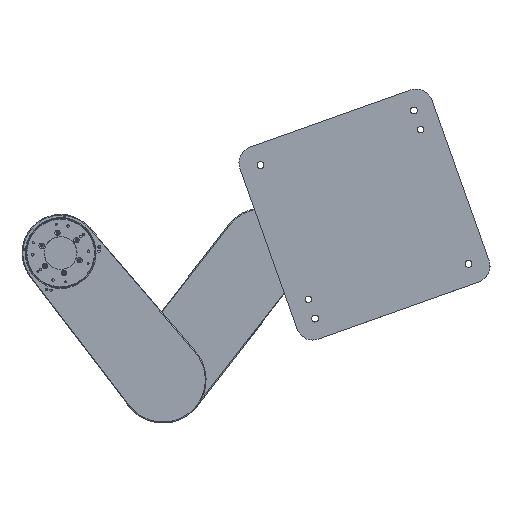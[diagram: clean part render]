
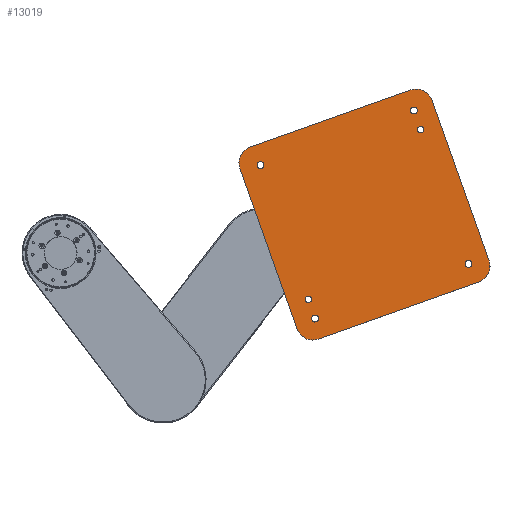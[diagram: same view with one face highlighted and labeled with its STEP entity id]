
A CAD part, top view. The second image highlights one B-rep face of the part: STEP entity #13019.
In plain terms, the highlighted planar face has unit normal (0, 0, 1) as drawn and (0.28, 0.209, 0.937) by its records, which use the part's own axes.
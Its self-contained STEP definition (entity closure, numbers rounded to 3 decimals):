
#11814=CARTESIAN_POINT('Vertex',(314.357,-45.836,782.163)) ;
#11819=CARTESIAN_POINT('Axis2P3D Location',(315.855,-42.336,780.935)) ;
#11823=CARTESIAN_POINT('Vertex',(317.352,-38.836,779.707)) ;
#11845=CARTESIAN_POINT('Axis2P3D Location',(315.855,-42.336,780.935)) ;
#12119=CARTESIAN_POINT('Vertex',(85.276,37.966,832.074)) ;
#12124=CARTESIAN_POINT('Axis2P3D Location',(83.779,34.466,833.302)) ;
#12128=CARTESIAN_POINT('Vertex',(82.282,30.966,834.529)) ;
#12150=CARTESIAN_POINT('Axis2P3D Location',(83.779,34.466,833.302)) ;
#12518=CARTESIAN_POINT('Vertex',(43.185,10.558,850.78)) ;
#12521=CARTESIAN_POINT('Axis2P3D Location',(58.23,21.727,843.788)) ;
#12525=CARTESIAN_POINT('Vertex',(46.307,37.784,843.78)) ;
#12549=CARTESIAN_POINT('Vertex',(168.382,-158.041,850.857)) ;
#12552=CARTESIAN_POINT('Line Origine',(105.783,-73.742,850.819)) ;
#12573=CARTESIAN_POINT('Vertex',(195.351,-162.929,843.872)) ;
#12576=CARTESIAN_POINT('Axis2P3D Location',(183.427,-146.872,843.865)) ;
#12597=CARTESIAN_POINT('Vertex',(353.327,-45.654,770.456)) ;
#12600=CARTESIAN_POINT('Line Origine',(274.339,-104.291,807.164)) ;
#12621=CARTESIAN_POINT('Vertex',(356.449,-18.428,763.456)) ;
#12624=CARTESIAN_POINT('Axis2P3D Location',(341.404,-29.597,770.449)) ;
#12645=CARTESIAN_POINT('Vertex',(231.252,150.171,763.379)) ;
#12648=CARTESIAN_POINT('Line Origine',(293.85,65.872,763.418)) ;
#12669=CARTESIAN_POINT('Vertex',(204.283,155.059,770.364)) ;
#12672=CARTESIAN_POINT('Axis2P3D Location',(216.206,139.002,770.371)) ;
#12689=CARTESIAN_POINT('Line Origine',(125.295,96.422,807.072)) ;
#12813=CARTESIAN_POINT('Axis2P3D Location',(64.972,20.505,842.042)) ;
#12817=CARTESIAN_POINT('Vertex',(63.381,16.786,843.346)) ;
#12819=CARTESIAN_POINT('Vertex',(66.563,24.224,840.737)) ;
#12839=CARTESIAN_POINT('Axis2P3D Location',(64.972,20.505,842.042)) ;
#12856=CARTESIAN_POINT('Axis2P3D Location',(184.208,-140.066,842.115)) ;
#12860=CARTESIAN_POINT('Vertex',(187.964,-141.922,841.404)) ;
#12862=CARTESIAN_POINT('Vertex',(180.452,-138.209,842.826)) ;
#12882=CARTESIAN_POINT('Axis2P3D Location',(184.208,-140.066,842.115)) ;
#12899=CARTESIAN_POINT('Axis2P3D Location',(334.661,-28.375,772.195)) ;
#12903=CARTESIAN_POINT('Vertex',(336.252,-24.656,770.89)) ;
#12905=CARTESIAN_POINT('Vertex',(333.07,-32.093,773.499)) ;
#12925=CARTESIAN_POINT('Axis2P3D Location',(334.661,-28.375,772.195)) ;
#12942=CARTESIAN_POINT('Axis2P3D Location',(215.426,132.196,772.121)) ;
#12946=CARTESIAN_POINT('Vertex',(211.669,134.052,772.832)) ;
#12948=CARTESIAN_POINT('Vertex',(219.182,130.339,771.41)) ;
#12968=CARTESIAN_POINT('Axis2P3D Location',(215.426,132.196,772.121)) ;
#12980=CARTESIAN_POINT('Axis2P3D Location',(-58.004,-39.652,892.257)) ;
#11820=DIRECTION('Axis2P3D Direction',(0.28,0.209,0.937)) ;
#11846=DIRECTION('Axis2P3D Direction',(0.28,0.209,0.937)) ;
#12125=DIRECTION('Axis2P3D Direction',(0.28,0.209,0.937)) ;
#12151=DIRECTION('Axis2P3D Direction',(0.28,0.209,0.937)) ;
#12522=DIRECTION('Axis2P3D Direction',(0.28,0.209,0.937)) ;
#12553=DIRECTION('Vector Direction',(-0.596,0.803,0.)) ;
#12577=DIRECTION('Axis2P3D Direction',(0.28,0.209,0.937)) ;
#12601=DIRECTION('Vector Direction',(-0.752,-0.558,0.35)) ;
#12625=DIRECTION('Axis2P3D Direction',(0.28,0.209,0.937)) ;
#12649=DIRECTION('Vector Direction',(0.596,-0.803,0.)) ;
#12673=DIRECTION('Axis2P3D Direction',(0.28,0.209,0.937)) ;
#12690=DIRECTION('Vector Direction',(0.752,0.558,-0.35)) ;
#12814=DIRECTION('Axis2P3D Direction',(0.28,0.209,0.937)) ;
#12840=DIRECTION('Axis2P3D Direction',(0.28,0.209,0.937)) ;
#12857=DIRECTION('Axis2P3D Direction',(0.28,0.209,0.937)) ;
#12883=DIRECTION('Axis2P3D Direction',(0.28,0.209,0.937)) ;
#12900=DIRECTION('Axis2P3D Direction',(0.28,0.209,0.937)) ;
#12926=DIRECTION('Axis2P3D Direction',(0.28,0.209,0.937)) ;
#12943=DIRECTION('Axis2P3D Direction',(0.28,0.209,0.937)) ;
#12969=DIRECTION('Axis2P3D Direction',(0.28,0.209,0.937)) ;
#12981=DIRECTION('Axis2P3D Direction',(-0.28,-0.209,-0.937)) ;
#12982=DIRECTION('Axis2P3D XDirection',(0.752,0.558,-0.35)) ;
#11821=AXIS2_PLACEMENT_3D('Circle Axis2P3D',#11819,#11820,$) ;
#11847=AXIS2_PLACEMENT_3D('Circle Axis2P3D',#11845,#11846,$) ;
#12126=AXIS2_PLACEMENT_3D('Circle Axis2P3D',#12124,#12125,$) ;
#12152=AXIS2_PLACEMENT_3D('Circle Axis2P3D',#12150,#12151,$) ;
#12523=AXIS2_PLACEMENT_3D('Circle Axis2P3D',#12521,#12522,$) ;
#12578=AXIS2_PLACEMENT_3D('Circle Axis2P3D',#12576,#12577,$) ;
#12626=AXIS2_PLACEMENT_3D('Circle Axis2P3D',#12624,#12625,$) ;
#12674=AXIS2_PLACEMENT_3D('Circle Axis2P3D',#12672,#12673,$) ;
#12815=AXIS2_PLACEMENT_3D('Circle Axis2P3D',#12813,#12814,$) ;
#12841=AXIS2_PLACEMENT_3D('Circle Axis2P3D',#12839,#12840,$) ;
#12858=AXIS2_PLACEMENT_3D('Circle Axis2P3D',#12856,#12857,$) ;
#12884=AXIS2_PLACEMENT_3D('Circle Axis2P3D',#12882,#12883,$) ;
#12901=AXIS2_PLACEMENT_3D('Circle Axis2P3D',#12899,#12900,$) ;
#12927=AXIS2_PLACEMENT_3D('Circle Axis2P3D',#12925,#12926,$) ;
#12944=AXIS2_PLACEMENT_3D('Circle Axis2P3D',#12942,#12943,$) ;
#12970=AXIS2_PLACEMENT_3D('Circle Axis2P3D',#12968,#12969,$) ;
#12983=AXIS2_PLACEMENT_3D('Plane Axis2P3D',#12980,#12981,#12982) ;
#12986=ORIENTED_EDGE('',*,*,#12527,.F.) ;
#12987=ORIENTED_EDGE('',*,*,#12556,.F.) ;
#12988=ORIENTED_EDGE('',*,*,#12580,.F.) ;
#12989=ORIENTED_EDGE('',*,*,#12604,.F.) ;
#12990=ORIENTED_EDGE('',*,*,#12628,.F.) ;
#12991=ORIENTED_EDGE('',*,*,#12652,.F.) ;
#12992=ORIENTED_EDGE('',*,*,#12676,.F.) ;
#12993=ORIENTED_EDGE('',*,*,#12693,.T.) ;
#12996=ORIENTED_EDGE('',*,*,#11825,.T.) ;
#12997=ORIENTED_EDGE('',*,*,#11849,.T.) ;
#13000=ORIENTED_EDGE('',*,*,#12154,.T.) ;
#13001=ORIENTED_EDGE('',*,*,#12130,.T.) ;
#13004=ORIENTED_EDGE('',*,*,#12843,.T.) ;
#13005=ORIENTED_EDGE('',*,*,#12821,.T.) ;
#13008=ORIENTED_EDGE('',*,*,#12886,.T.) ;
#13009=ORIENTED_EDGE('',*,*,#12864,.T.) ;
#13012=ORIENTED_EDGE('',*,*,#12929,.T.) ;
#13013=ORIENTED_EDGE('',*,*,#12907,.T.) ;
#13016=ORIENTED_EDGE('',*,*,#12972,.T.) ;
#13017=ORIENTED_EDGE('',*,*,#12950,.T.) ;
#12998=FACE_BOUND('',#12995,.T.) ;
#13002=FACE_BOUND('',#12999,.T.) ;
#13006=FACE_BOUND('',#13003,.T.) ;
#13010=FACE_BOUND('',#13007,.T.) ;
#13014=FACE_BOUND('',#13011,.T.) ;
#13018=FACE_BOUND('',#13015,.T.) ;
#12554=VECTOR('Line Direction',#12553,1.) ;
#12602=VECTOR('Line Direction',#12601,1.) ;
#12650=VECTOR('Line Direction',#12649,1.) ;
#12691=VECTOR('Line Direction',#12690,1.) ;
#13019=ADVANCED_FACE('\X2\591658F37EC44EF6\X0\.1\\\X2\672C4F535E955EA7\X0\\\\X2\96F64EF651E04F554F53\X0\',(#12994,#12998,#13002,#13006,#13010,#13014,#13018),#12984,.F.) ;
#11822=CIRCLE('generated circle',#11821,4.) ;
#11848=CIRCLE('generated circle',#11847,4.) ;
#12127=CIRCLE('generated circle',#12126,4.) ;
#12153=CIRCLE('generated circle',#12152,4.) ;
#12524=CIRCLE('generated circle',#12523,20.) ;
#12579=CIRCLE('generated circle',#12578,20.) ;
#12627=CIRCLE('generated circle',#12626,20.) ;
#12675=CIRCLE('generated circle',#12674,20.) ;
#12816=CIRCLE('generated circle',#12815,4.25) ;
#12842=CIRCLE('generated circle',#12841,4.25) ;
#12859=CIRCLE('generated circle',#12858,4.25) ;
#12885=CIRCLE('generated circle',#12884,4.25) ;
#12902=CIRCLE('generated circle',#12901,4.25) ;
#12928=CIRCLE('generated circle',#12927,4.25) ;
#12945=CIRCLE('generated circle',#12944,4.25) ;
#12971=CIRCLE('generated circle',#12970,4.25) ;
#11825=EDGE_CURVE('',#11824,#11815,#11822,.F.) ;
#11849=EDGE_CURVE('',#11815,#11824,#11848,.F.) ;
#12130=EDGE_CURVE('',#12129,#12120,#12127,.F.) ;
#12154=EDGE_CURVE('',#12120,#12129,#12153,.F.) ;
#12527=EDGE_CURVE('',#12519,#12526,#12524,.F.) ;
#12556=EDGE_CURVE('',#12550,#12519,#12555,.T.) ;
#12580=EDGE_CURVE('',#12574,#12550,#12579,.F.) ;
#12604=EDGE_CURVE('',#12598,#12574,#12603,.T.) ;
#12628=EDGE_CURVE('',#12622,#12598,#12627,.F.) ;
#12652=EDGE_CURVE('',#12646,#12622,#12651,.T.) ;
#12676=EDGE_CURVE('',#12670,#12646,#12675,.F.) ;
#12693=EDGE_CURVE('',#12670,#12526,#12692,.F.) ;
#12821=EDGE_CURVE('',#12818,#12820,#12816,.F.) ;
#12843=EDGE_CURVE('',#12820,#12818,#12842,.F.) ;
#12864=EDGE_CURVE('',#12861,#12863,#12859,.F.) ;
#12886=EDGE_CURVE('',#12863,#12861,#12885,.F.) ;
#12907=EDGE_CURVE('',#12904,#12906,#12902,.F.) ;
#12929=EDGE_CURVE('',#12906,#12904,#12928,.F.) ;
#12950=EDGE_CURVE('',#12947,#12949,#12945,.F.) ;
#12972=EDGE_CURVE('',#12949,#12947,#12971,.F.) ;
#12985=EDGE_LOOP('',(#12986,#12987,#12988,#12989,#12990,#12991,#12992,#12993)) ;
#12995=EDGE_LOOP('',(#12996,#12997)) ;
#12999=EDGE_LOOP('',(#13000,#13001)) ;
#13003=EDGE_LOOP('',(#13004,#13005)) ;
#13007=EDGE_LOOP('',(#13008,#13009)) ;
#13011=EDGE_LOOP('',(#13012,#13013)) ;
#13015=EDGE_LOOP('',(#13016,#13017)) ;
#12994=FACE_OUTER_BOUND('',#12985,.T.) ;
#12555=LINE('Line',#12552,#12554) ;
#12603=LINE('Line',#12600,#12602) ;
#12651=LINE('Line',#12648,#12650) ;
#12692=LINE('Line',#12689,#12691) ;
#12984=PLANE('Plane',#12983) ;
#11815=VERTEX_POINT('',#11814) ;
#11824=VERTEX_POINT('',#11823) ;
#12120=VERTEX_POINT('',#12119) ;
#12129=VERTEX_POINT('',#12128) ;
#12519=VERTEX_POINT('',#12518) ;
#12526=VERTEX_POINT('',#12525) ;
#12550=VERTEX_POINT('',#12549) ;
#12574=VERTEX_POINT('',#12573) ;
#12598=VERTEX_POINT('',#12597) ;
#12622=VERTEX_POINT('',#12621) ;
#12646=VERTEX_POINT('',#12645) ;
#12670=VERTEX_POINT('',#12669) ;
#12818=VERTEX_POINT('',#12817) ;
#12820=VERTEX_POINT('',#12819) ;
#12861=VERTEX_POINT('',#12860) ;
#12863=VERTEX_POINT('',#12862) ;
#12904=VERTEX_POINT('',#12903) ;
#12906=VERTEX_POINT('',#12905) ;
#12947=VERTEX_POINT('',#12946) ;
#12949=VERTEX_POINT('',#12948) ;
